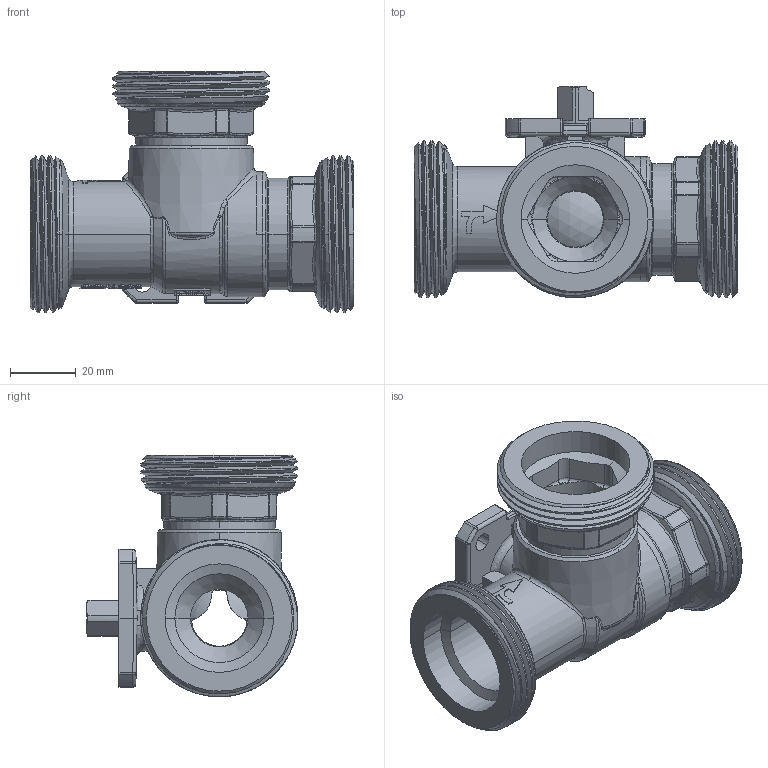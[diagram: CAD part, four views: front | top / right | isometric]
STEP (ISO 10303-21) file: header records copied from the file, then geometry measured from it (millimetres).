
FILE_DESCRIPTION((''),'2;1');
FILE_NAME('H988T1025_2314_SW2','2015-05-11T',('64ciro'),('Vir spa'),'PRO/ENGINEER BY PARAMETRIC TECHNOLOGY CORPORATION, 2010280','PRO/ENGINEER BY PARAMETRIC TECHNOLOGY CORPORATION, 2010280','');
FILE_SCHEMA(('CONFIG_CONTROL_DESIGN'));
Products named in the file (1): H988T1025_2314_SW2
Bounding box: 98.4 x 64.4 x 73.39 mm (x, y, z)
Volume: 91048.2 mm3; surface area: 48778.4 mm2
Topology: 1 solids, 1 shells, 1069 faces, 2675 edges, 1660 vertices
Faces by surface type: cylinder 277, plane 236, extrusion 181, bspline 168, torus 101, cone 90, sphere 16
Entity records: 47427 total; most frequent: CARTESIAN_POINT 23801, ORIENTED_EDGE 5350, DIRECTION 4161, EDGE_CURVE 2675, VERTEX_POINT 1660, AXIS2_PLACEMENT_3D 1556, B_SPLINE_CURVE_WITH_KNOTS 1152, EDGE_LOOP 1141
